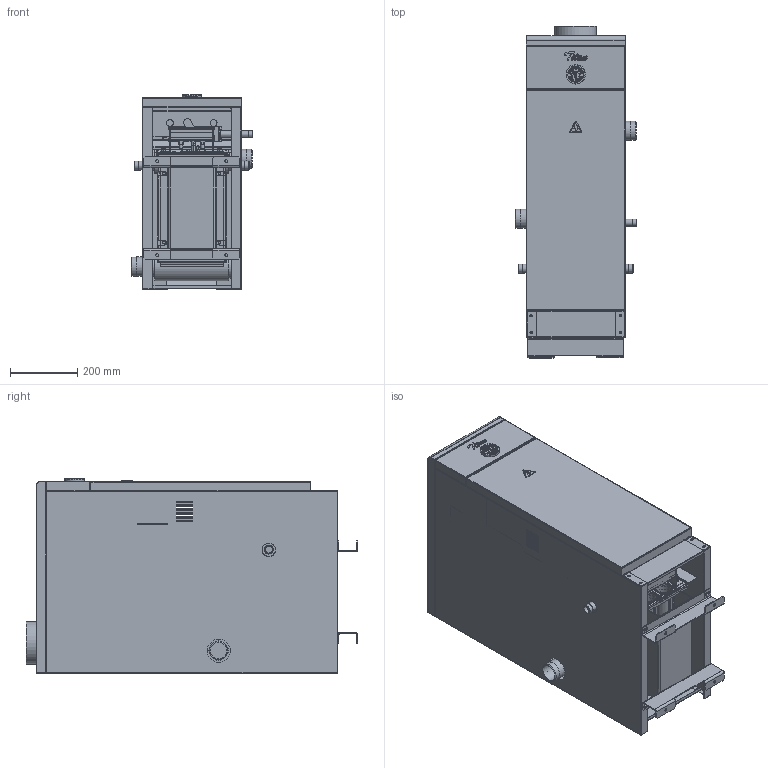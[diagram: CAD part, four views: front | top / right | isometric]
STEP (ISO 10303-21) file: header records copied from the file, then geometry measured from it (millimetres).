
FILE_DESCRIPTION(('STEP AP242'), '1');
FILE_NAME('ﾒﾈﾒﾀﾍ 2016', '', ('UNSPECIFIED'), ('UNSPECIFIED'), 'ASCON STEP Converter 1.6', 'ASCON Math Kernel', '');
FILE_SCHEMA(('AP242_MANAGED_MODEL_BASED_3D_ENGINEERING_MIM_LF { 1 0 10303 442 1 1 4 }'));
Length unit declared in the file: millimetre
Products named in the file (72): КЕВМ.3106.00.00.000-10 СБ; КЕВМ.3103.01.01.002; -01; КЕВМ.3101.05.00.001-01; КЕВМ.3103.01.02.003; КЕВМ.3103.01.02.004; КЕВМ.3101.05.00.007; Клапан манометра 1_2'''' х 1_4''''; Колба защитная; Заглушка Ду50; Заглушка Ду15; Кран маевского; -082; КЕВМ.3106.00.00.001; КЕВМ.3106.00.00.001-01; -09; КЕВМ.3106.00.00.004; КЕВМ.3106.00.00.005; Термостат аварийный IMIT; Колпачек термостата; Значек закипание 10х10; КЕВМ.3106.00.00.010; Термоманометр 030646; КЕВМ.3106.01.00.000-20; КЕВМ.3106.01.00.001; КЕВМ.3106.01.00.002; -02; КЕВМ.3106.01.01.000-10; КЕВМ.3106.01.01.001-10; КЕВМ.3105.02.01.002; КЕВМ.3105.03.01.014; КЕВМ.3106.01.00.003-10; КЕВМ.3106.01.00.003; КЕВМ.3106.01.00.002-10; КЕВМ.3103.00.00.021; Знак W26 Горячая поверхносить
Assembly tree (107 placements, depth 4):
  КЕВМ.3106.00.00.000-10 СБ
    (unnamed)
      (unnamed)
      (unnamed)
        (unnamed)
        КЕВМ.3103.01.01.002  x2
      (unnamed)
        (unnamed)
        -01
        КЕВМ.3101.05.00.001-01
        (unnamed)
        (unnamed)
        КЕВМ.3103.01.02.003
        КЕВМ.3103.01.02.004
        КЕВМ.3101.05.00.007
      (unnamed)
      (unnamed)
      (unnamed)
      -01
      Клапан манометра 1_2'''' х 1_4''''
      Колба защитная
      Заглушка Ду50  x2
      (unnamed)  x2
      (unnamed)  x2
      (unnamed)  x4
      Заглушка Ду15
      Кран маевского
    (unnamed)  x2
    -082
      КЕВМ.3106.00.00.001
      КЕВМ.3106.00.00.001-01
      (unnamed)
      -09
      КЕВМ.3106.00.00.004
      КЕВМ.3106.00.00.005
      (unnamed)
      (unnamed)  x2
        Термостат аварийный IMIT
        Колпачек термостата
      (unnamed)
      Значек закипание 10х10
      (unnamed)  x2
      КЕВМ.3106.00.00.010
      Термоманометр 030646
      (unnamed)
    КЕВМ.3106.01.00.000-20
      КЕВМ.3106.01.00.001
      КЕВМ.3106.01.00.002
      (unnamed)
      (unnamed)
      (unnamed)  x2
      (unnamed)  x2
      (unnamed)  x2
      (unnamed)
      (unnamed)
      -02  x2
      (unnamed)  x12
      КЕВМ.3106.01.01.000-10
        КЕВМ.3106.01.01.001-10
        КЕВМ.3105.02.01.002  x2
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Bounding box: 361.5 x 985.8 x 577.6 mm (x, y, z)
Volume: 30716819.2 mm3; surface area: 7325359.6 mm2
Topology: 116 solids, 119 shells, 5621 faces, 14670 edges, 9518 vertices
Faces by surface type: plane 3377, cylinder 1691, bspline 356, cone 82, extrusion 72, torus 31, sphere 12
Full cylindrical faces by diameter (mm): 0.6 x1, 0.7 x264, 1.9 x2, 2.8 x2, 3 x41, 3.2 x12, 4 x29, 4.2 x12, 4.5 x10, 5 x20, 6 x10, 6.2 x1, 6.6 x1, 6.647 x2, 6.7 x2, 6.917 x6, 7 x2, 7.1 x1, 7.917 x1, 8 x27, 8.4 x3, 8.5 x4, 8.917 x3, 9.8 x1, 10 x28, 10.5 x2, 11 x1, 11.4 x1, 11.5 x1, 13 x1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
Entity records: 217609 total; most frequent: CARTESIAN_POINT 85113, ORIENTED_EDGE 22832, DIRECTION 20948, EDGE_CURVE 11417, VECTOR 7698, VERTEX_POINT 7635, LINE 7626, AXIS2_PLACEMENT_3D 6625
